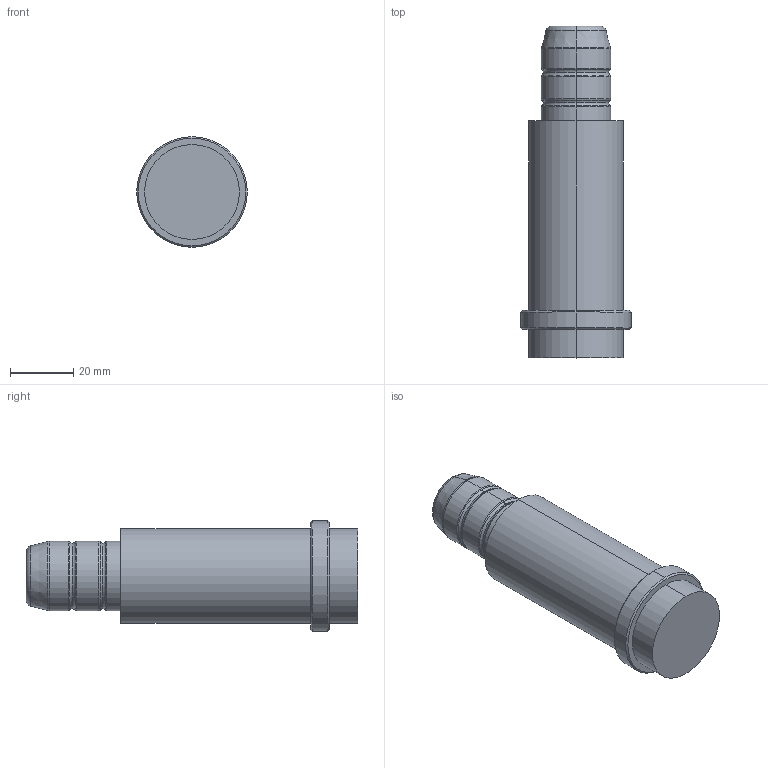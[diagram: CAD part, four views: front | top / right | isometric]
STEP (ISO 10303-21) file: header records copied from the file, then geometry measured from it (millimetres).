
FILE_DESCRIPTION (( 'STEP AP214' ), '1' );
FILE_NAME ('BR00 22x66x35.STEP', '2019-05-15T13:44:16', ( 'August' ), ( '' ), 'SwSTEP 2.0', 'SolidWorks 2018', '' );
FILE_SCHEMA (( 'AUTOMOTIVE_DESIGN' ));
Length unit declared in the file: millimetre
Products named in the file (1): BR00 22x66x35
Bounding box: 35 x 105 x 35 mm (x, y, z)
Volume: 65347.1 mm3; surface area: 10964.2 mm2
Topology: 1 solids, 1 shells, 43 faces, 84 edges, 46 vertices
Faces by surface type: torus 20, cylinder 12, cone 6, plane 5
Entity records: 1138 total; most frequent: DIRECTION 238, CARTESIAN_POINT 174, ORIENTED_EDGE 168, AXIS2_PLACEMENT_3D 110, EDGE_CURVE 84, CIRCLE 66, EDGE_LOOP 46, VERTEX_POINT 46
